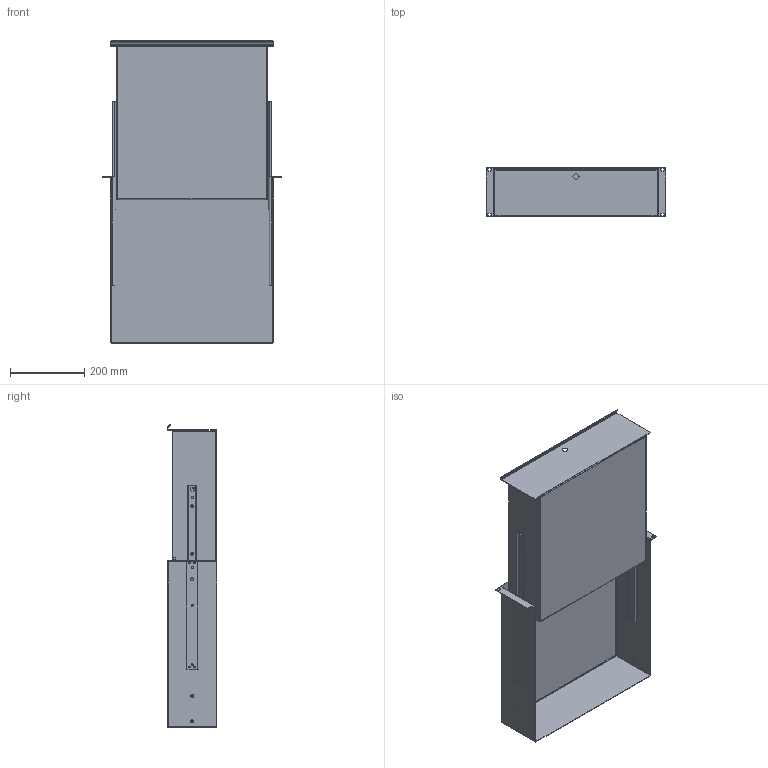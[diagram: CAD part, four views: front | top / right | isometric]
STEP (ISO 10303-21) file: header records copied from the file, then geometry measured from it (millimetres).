
FILE_DESCRIPTION (( 'STEP AP203' ), '1' );
FILE_NAME ('p19dr3us.STEP', '2013-04-22T05:14:49', ( '' ), ( '' ), 'SwSTEP 2.0', 'SolidWorks 2010', '' );
FILE_SCHEMA (( 'CONFIG_CONTROL_DESIGN' ));
Length unit declared in the file: inch
Products named in the file (5): p19dr3us; 87576501_87576501; 87576507_87576507; 87410163_Extended; 99401314_99401314
Assembly tree (6 placements, depth 2):
  p19dr3us
    87410163_Extended  x2
    87576501_87576501
    99401314_99401314  x2
    87576507_87576507
Bounding box: 482.98 x 132.61 x 815.11 mm (x, y, z)
Volume: 1125113.1 mm3; surface area: 1613366.3 mm2
Topology: 8 solids, 8 shells, 583 faces, 1511 edges, 954 vertices
Faces by surface type: plane 290, cylinder 203, torus 48, cone 32, bspline 10
Entity records: 14682 total; most frequent: CARTESIAN_POINT 3167, DIRECTION 2375, ORIENTED_EDGE 2218, EDGE_CURVE 1109, AXIS2_PLACEMENT_3D 856, VERTEX_POINT 690, LINE 663, VECTOR 663
